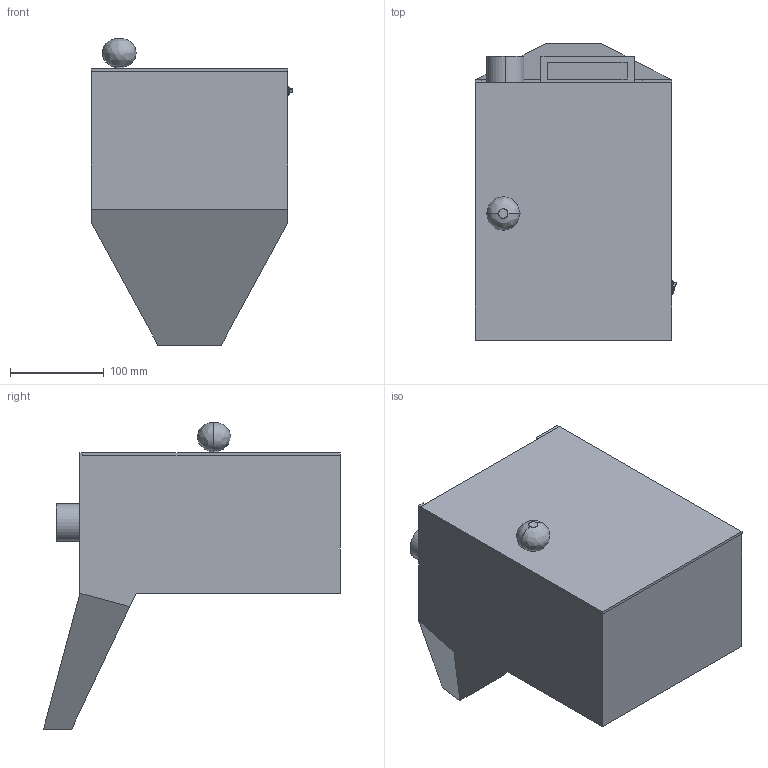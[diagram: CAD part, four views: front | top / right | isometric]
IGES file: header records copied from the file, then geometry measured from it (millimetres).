
Start section: SolidWorks IGES file using analytic representation for surfaces
Global section: file name: D:\Srinu\Auto dispenser\IGS\Assem1.IGS; native system: SolidWorks 2016; preprocessor: SolidWorks 2016; author: srinu; date: 200615.145447; units: millimetre
Bounding box: 215.15 x 316.82 x 326.59 mm (x, y, z)
Surface area: 755385.5 mm2 (no closed solid volume)
Topology: 0 solids, 0 shells, 188 faces, 1368 edges, 1360 vertices
Faces by surface type: bspline 150, revolution 38
